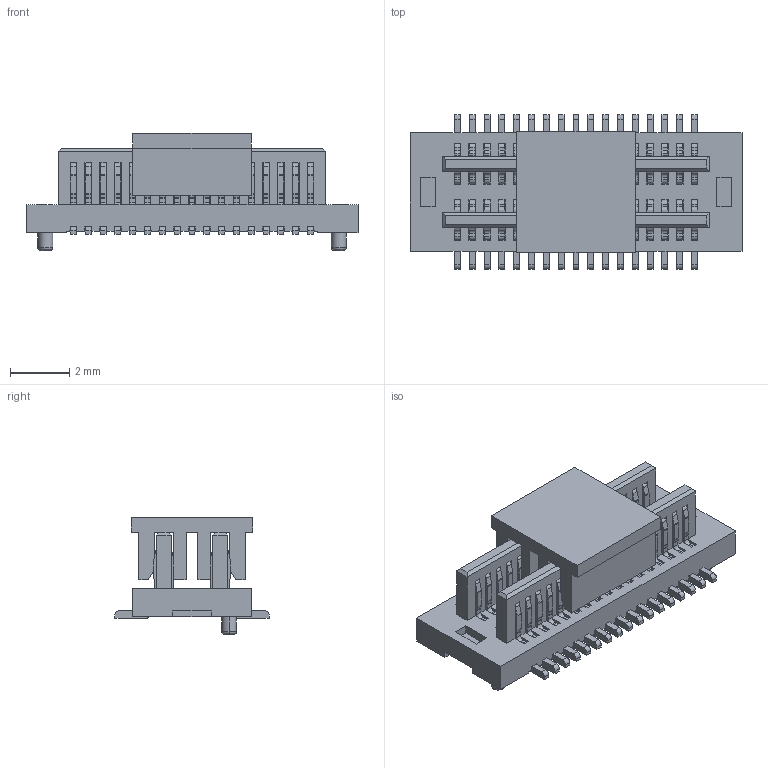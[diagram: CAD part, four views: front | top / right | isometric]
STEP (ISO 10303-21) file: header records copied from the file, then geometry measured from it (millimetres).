
FILE_DESCRIPTION(('CATIA V5 STEP Exchange'),'2;1');
FILE_NAME('F:\黄富鸿\板对板\PBB05\公座\H1.0\编带+盖\HC-PBB05-2-34-M-H1.0-G1-R-P-04（BTB0.5 双槽 公座 立贴 带柱 编带+盖）-HCTL.stp','2025-12-09T01:02:27+00:00',('none'),('none'),'CATIA Version 5 Release 20 GA (IN-10)','CATIA V5 STEP AP203','none');
FILE_SCHEMA(('CONFIG_CONTROL_DESIGN'));
Length unit declared in the file: millimetre
Products named in the file (1): Part2
Bounding box: 11.2 x 5.2 x 3.95 mm (x, y, z)
Volume: 77.7 mm3; surface area: 614.4 mm2
Topology: 36 solids, 36 shells, 1984 faces, 6046 edges, 4004 vertices
Faces by surface type: plane 1296, cylinder 684, torus 4
Entity records: 58105 total; most frequent: ORIENTED_EDGE 12092, CARTESIAN_POINT 10770, DIRECTION 6532, EDGE_CURVE 6046, VECTOR 4534, LINE 4534, VERTEX_POINT 4004, EDGE_LOOP 1990
